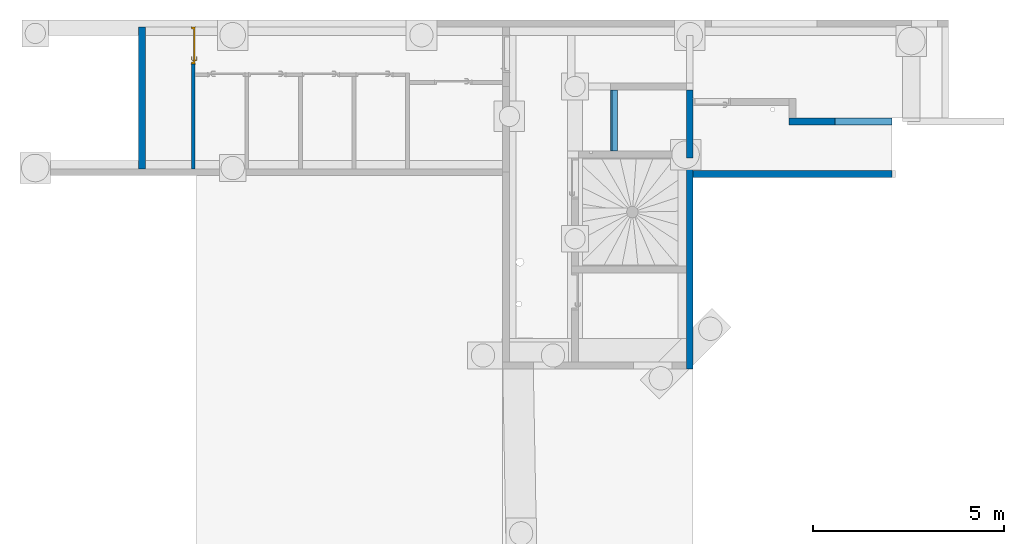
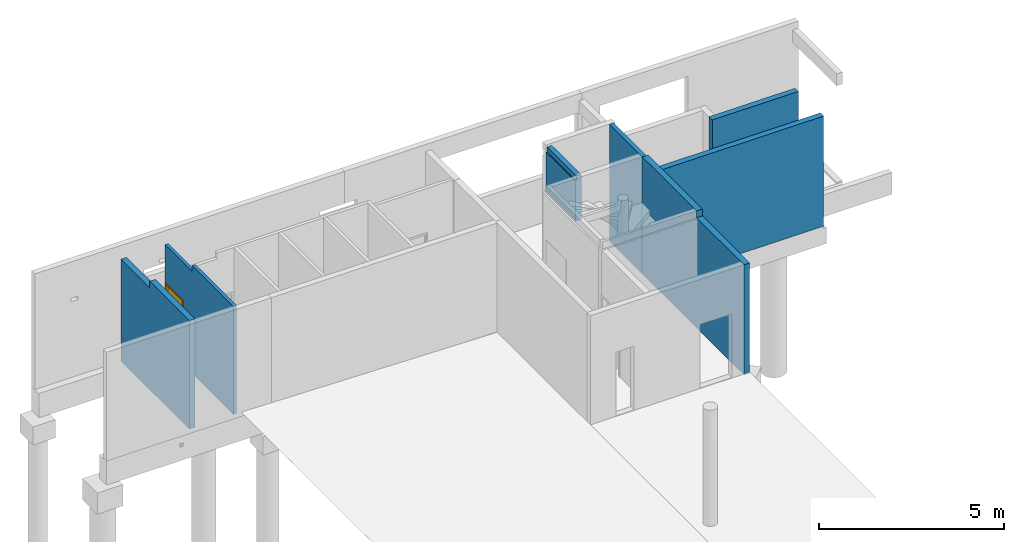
# One storey, part 3 of 14: 7 walls, 1 door, 3 openings.
"""IFC2X3 building model written with IfcOpenShell, lengths in centimetres."""

from ifc_helpers import new_model, entity, si_unit, converted_unit, derived_unit, direction, frame, frame_2d, origin, place, context, subcontext, project, spatial, polyline, rectangle, extrude, clip, bounded_halfspace, faceted_brep, source, transform, mapped, material, material_list, layer, layer_set, layer_usage, type_object, type_shapes, element, fill, save


model = new_model("IFC2X3")

# Units and contexts
model_context = context("Model", 3, precision=0.001, world=origin(), true_north=direction((6.12303176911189e-17, 1.0)))
body_context = subcontext(model_context, "Body", "Model", "MODEL_VIEW")
ifc_project = project(units=[si_unit("LENGTHUNIT", "METRE", prefix="CENTI"), si_unit("AREAUNIT", "SQUARE_METRE"), si_unit("VOLUMEUNIT", "CUBIC_METRE"), converted_unit("PLANEANGLEUNIT", "DEGREE", entity("IfcRatioMeasure", 0.0174532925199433), si_unit("PLANEANGLEUNIT", "RADIAN"), dimensions=[0, 0, 0, 0, 0, 0, 0]), si_unit("MASSUNIT", "GRAM", prefix="KILO"), derived_unit("MASSDENSITYUNIT", [(si_unit("MASSUNIT", "GRAM", prefix="KILO"), 1), (si_unit("LENGTHUNIT", "METRE"), -3)]), si_unit("TIMEUNIT", "SECOND"), si_unit("FREQUENCYUNIT", "HERTZ"), si_unit("THERMODYNAMICTEMPERATUREUNIT", "DEGREE_CELSIUS"), derived_unit("THERMALTRANSMITTANCEUNIT", [(si_unit("MASSUNIT", "GRAM", prefix="KILO"), 1), (si_unit("THERMODYNAMICTEMPERATUREUNIT", "KELVIN"), -1), (si_unit("TIMEUNIT", "SECOND"), -3)]), derived_unit("VOLUMETRICFLOWRATEUNIT", [(si_unit("LENGTHUNIT", "METRE"), 3), (si_unit("TIMEUNIT", "SECOND"), -1)]), si_unit("ELECTRICCURRENTUNIT", "AMPERE"), si_unit("ELECTRICVOLTAGEUNIT", "VOLT"), si_unit("POWERUNIT", "WATT"), si_unit("FORCEUNIT", "NEWTON"), si_unit("ILLUMINANCEUNIT", "LUX"), si_unit("LUMINOUSFLUXUNIT", "LUMEN"), si_unit("LUMINOUSINTENSITYUNIT", "CANDELA"), derived_unit("USERDEFINED", [(si_unit("MASSUNIT", "GRAM", prefix="KILO"), -1), (si_unit("LENGTHUNIT", "METRE"), -2), (si_unit("TIMEUNIT", "SECOND"), 3), (si_unit("LUMINOUSFLUXUNIT", "LUMEN"), 1)]), derived_unit("LINEARVELOCITYUNIT", [(si_unit("LENGTHUNIT", "METRE"), 1), (si_unit("TIMEUNIT", "SECOND"), -1)]), si_unit("PRESSUREUNIT", "PASCAL"), derived_unit("USERDEFINED", [(si_unit("LENGTHUNIT", "METRE"), -2), (si_unit("MASSUNIT", "GRAM", prefix="KILO"), 1), (si_unit("TIMEUNIT", "SECOND"), -2)])], contexts=[model_context])

# Site, building, storey
site_placement = place(None, origin())
site = spatial("IfcSite", under=ifc_project, at=site_placement, Name="Default", CompositionType="ELEMENT")
building_placement = place(site_placement, origin())
building = spatial("IfcBuilding", under=site, at=building_placement, Name="CAGE 03", CompositionType="ELEMENT")
storey_placement = place(building_placement, frame((0.0, 0.0, -42.0)))
storey = spatial("IfcBuildingStorey", under=building, at=storey_placement, Name="+3.58", CompositionType="ELEMENT", Elevation=-42.0000000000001)

# Wall, opening
ifc_material_1 = material(Name="Béton, C25/30")
ifc_layer_1 = layer(ifc_material_1, 18.0)
ifc_layer_set_1 = layer_set([ifc_layer_1], Name="Mur de base:Voile BA 18")
ifc_layer_usage_1 = layer_usage(ifc_layer_set_1, "AXIS2", "NEGATIVE", 9.0)
wall_type_1 = type_object("IfcWallType", Name="Mur de base:Voile BA 18", PredefinedType="STANDARD", material=ifc_layer_set_1)
wall_1_placement = place(storey_placement, frame((10301.3658201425, 5110.66066607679, 227.0), z_axis=(0.0, 0.0, 1.0), x_axis=(0.0, -1.0, 0.0)))
wall_1 = element("IfcWallStandardCase", 1, at=wall_1_placement, inside=storey, type_object=wall_type_1, material=ifc_layer_usage_1, Name="Mur de base:Voile BA 18", ObjectType="Mur de base:Voile BA 18", context=body_context, shape_type="Clipping", body=[
    clip(clip(extrude(rectangle(XDim=160.000000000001, YDim=17.9999999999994, at=frame_2d((80.0000000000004, 0.0), x_axis=(-1.0, 0.0))), origin(), (0.0, 0.0, 1.0), 148.0), bounded_halfspace(frame((160.0, -6.0, 132.0), z_axis=(0.0, 0.0, -1.0), x_axis=(1.0, 0.0, 0.0)), True, frame((160.0, -6.0, 132.0), z_axis=(0.0, 0.0, -1.0), x_axis=(1.0, 0.0, 0.0)), polyline([(0.0, 0.0), (0.0, 3.0), (-160.0, 3.0), (-160.0, 0.0), (0.0, 0.0)]))), bounded_halfspace(frame((0.0, -6.0, 132.0), z_axis=(0.0, 1.0, 0.0), x_axis=(0.0, 0.0, 1.0)), True, frame((0.0, -6.0, 132.0), z_axis=(0.0, 1.0, 0.0), x_axis=(0.0, 0.0, 1.0)), polyline([(0.0, 0.0), (16.0, 0.0), (16.0, 160.0), (0.0, 160.0), (0.0, 0.0)]))),
])
opening_1_placement = place(wall_1_placement, frame((5110.66066607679, -10301.3658201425, -227.0), z_axis=(0.0, 0.0, 1.0), x_axis=(0.0, 1.0, 0.0)))
element("IfcOpeningElement", 2, at=opening_1_placement, cuts=wall_1, Name="Mur de base:Voile BA 18", ObjectType="Opening", context=body_context, shape_type="SweptSolid", body=[
    extrude(rectangle(XDim=232.0, YDim=160.0, at=frame_2d((0.0, 0.0), x_axis=(0.0, 1.0))), frame((10157.9658201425, 5030.66066607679, 111.0), z_axis=(1.0, 0.0, 0.0), x_axis=(0.0, 1.0, 0.0)), (0.0, 0.0, 1.0), 304.8),
])

# Walls
ifc_layer_usage_2 = layer_usage(ifc_layer_set_1, "AXIS2", "POSITIVE", -9.0)
wall_2_placement = place(storey_placement, frame((10499.3658201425, 5110.66066607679, -5.0), z_axis=(0.0, 0.0, 1.0), x_axis=(0.0, -1.0, 0.0)))
element("IfcWallStandardCase", 3, at=wall_2_placement, inside=storey, type_object=wall_type_1, material=ifc_layer_usage_2, Name="Mur de base:Voile BA 18", ObjectType="Mur de base:Voile BA 18", context=body_context, shape_type="Clipping", body=[
    clip(clip(extrude(rectangle(XDim=178.000000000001, YDim=17.9999999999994, at=frame_2d((89.0000000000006, 1.20792265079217e-13), x_axis=(-1.0, 0.0))), origin(), (0.0, 0.0, 1.0), 387.0), bounded_halfspace(frame((0.0, 3.49999999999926, 364.0), z_axis=(0.0, 0.0, -1.0), x_axis=(1.0, 0.0, 0.0)), True, frame((0.0, 3.49999999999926, 364.0), z_axis=(0.0, 0.0, -1.0), x_axis=(1.0, 0.0, 0.0)), polyline([(0.0, 0.0), (0.0, -5.50000000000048), (178.0, -5.50000000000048), (178.0, 0.0), (0.0, 0.0)]))), bounded_halfspace(frame((178.0, 3.4999999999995, 364.0), z_axis=(0.0, -1.0, 0.0), x_axis=(0.0, 0.0, 1.0)), True, frame((178.0, 3.4999999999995, 364.0), z_axis=(0.0, -1.0, 0.0), x_axis=(0.0, 0.0, 1.0)), polyline([(0.0, 0.0), (23.0, 0.0), (23.0, 178.0), (0.0, 178.0), (0.0, 0.0)]))),
])
ifc_layer_usage_3 = layer_usage(ifc_layer_set_1, "AXIS2", "POSITIVE", -9.0)
wall_3_placement = place(storey_placement, frame((10499.3658201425, 4932.66066607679, -5.0), z_axis=(0.0, 0.0, 1.0), x_axis=(0.0, -1.0, 0.0)))
element("IfcWallStandardCase", 4, at=wall_3_placement, inside=storey, type_object=wall_type_1, material=ifc_layer_usage_3, Name="Mur de base:Voile BA 18", ObjectType="Mur de base:Voile BA 18", context=body_context, shape_type="Clipping", body=[
    clip(clip(extrude(rectangle(XDim=550.999999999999, YDim=17.9999999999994, at=frame_2d((275.5, 1.30562227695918e-13), x_axis=(-1.0, 0.0))), origin(), (0.0, 0.0, 1.0), 387.0), bounded_halfspace(frame((294.500000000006, 9.0, 364.0), z_axis=(0.0, 0.0, -1.0), x_axis=(1.0, 0.0, 0.0)), True, frame((294.500000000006, 9.0, 364.0), z_axis=(0.0, 0.0, -1.0), x_axis=(1.0, 0.0, 0.0)), polyline([(0.0, 0.0), (256.499999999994, 0.0), (256.499999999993, 18.0), (238.499999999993, 18.0), (5.49999999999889, 18.0), (0.0, 18.0), (0.0, 0.0)]))), bounded_halfspace(frame((294.500000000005, -9.0, 364.0), z_axis=(-1.0, 0.0, 0.0), x_axis=(0.0, 0.0, 1.0)), True, frame((294.500000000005, -9.0, 364.0), z_axis=(-1.0, 0.0, 0.0), x_axis=(0.0, 0.0, 1.0)), polyline([(0.0, 0.0), (23.0, 0.0), (23.0, 18.0), (0.0, 18.0), (0.0, 0.0)]))),
])

# Wall, opening
ifc_layer_usage_4 = layer_usage(ifc_layer_set_1, "AXIS2", "NEGATIVE", 9.0)
wall_4_placement = place(storey_placement, frame((9067.36582014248, 5275.6606660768, 0.0), z_axis=(0.0, 0.0, 1.0), x_axis=(0.0, -1.0, 0.0)))
wall_4 = element("IfcWallStandardCase", 5, at=wall_4_placement, inside=storey, type_object=wall_type_1, material=ifc_layer_usage_4, Name="Mur de base:Voile BA 18", ObjectType="Mur de base:Voile BA 18", context=body_context, shape_type="SweptSolid", body=[
    extrude(rectangle(XDim=371.000000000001, YDim=17.9999999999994, at=frame_2d((185.500000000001, 0.0), x_axis=(-1.0, 0.0))), origin(), (0.0, 0.0, 1.0), 359.0),
])
opening_2_placement = place(wall_4_placement, origin())
element("IfcOpeningElement", 6, at=opening_2_placement, cuts=wall_4, Name="Mur de base:Voile BA 18", ObjectType="Opening", context=body_context, shape_type="SweptSolid", body=[
    extrude(rectangle(XDim=22.0000000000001, YDim=165.000000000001, at=frame_2d((0.0, -8.17124146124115e-14), x_axis=(0.0, 1.0))), frame((73.5000000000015, 9.0, 348.0), z_axis=(0.0, -1.0, 0.0), x_axis=(-1.0, 0.0, 0.0)), (0.0, 0.0, 1.0), 18.0),
])

# Walls
ifc_layer_usage_5 = layer_usage(ifc_layer_set_1, "AXIS2", "POSITIVE", -9.0)
wall_5_placement = place(storey_placement, frame((11028.3658201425, 5028.16066607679, -5.0), z_axis=(0.0, 0.0, 1.0), x_axis=(-1.0, 0.0, 0.0)))
element("IfcWallStandardCase", 7, at=wall_5_placement, inside=storey, type_object=wall_type_1, material=ifc_layer_usage_5, Name="Mur de base:Voile BA 18", ObjectType="Mur de base:Voile BA 18", context=body_context, shape_type="Clipping", body=[
    clip(extrude(rectangle(XDim=268.999999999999, YDim=17.9999999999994, at=frame_2d((134.5, -1.15463194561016e-14), x_axis=(-1.0, 0.0))), origin(), (0.0, 0.0, 1.0), 362.0), bounded_halfspace(frame((150.0, -9.0, 193.0), z_axis=(1.0, 0.0, 0.0), x_axis=(0.0, -1.0, 0.0)), True, frame((150.0, -9.0, 193.0), z_axis=(1.0, 0.0, 0.0), x_axis=(0.0, -1.0, 0.0)), polyline([(0.0, 0.0), (0.0, 115.0), (-18.0, 115.0), (-18.0, 0.0), (0.0, 0.0)]))),
])
ifc_layer_usage_6 = layer_usage(ifc_layer_set_1, "AXIS2", "POSITIVE", -9.0)
wall_6_placement = place(storey_placement, frame((11028.3658201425, 4890.66066607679, -5.0), z_axis=(0.0, 0.0, 1.0), x_axis=(-1.0, 0.0, 0.0)))
element("IfcWallStandardCase", 8, at=wall_6_placement, inside=storey, type_object=wall_type_1, material=ifc_layer_usage_6, Name="Mur de base:Voile BA 18", ObjectType="Mur de base:Voile BA 18", context=body_context, shape_type="SweptSolid", body=[
    extrude(rectangle(XDim=520.0, YDim=17.9999999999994, at=frame_2d((260.0, -5.24025267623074e-14), x_axis=(-1.0, 0.0))), origin(), (0.0, 0.0, 1.0), 364.0),
])

# Wall, opening, door
ifc_material_2 = material(Name="Bloc béton")
ifc_layer_2 = layer(ifc_material_2, 10.0)
ifc_layer_set_2 = layer_set([ifc_layer_2], Name="Mur de base:Int. Parpaing 100 mm")
ifc_layer_usage_7 = layer_usage(ifc_layer_set_2, "AXIS2", "NEGATIVE", 5.0)
wall_type_2 = type_object("IfcWallType", Name="Mur de base:Int. Parpaing 100 mm", PredefinedType="STANDARD", material=ifc_layer_set_2)
wall_7_placement = place(storey_placement, frame((9201.36582014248, 5275.66066607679, 0.0), z_axis=(0.0, 0.0, 1.0), x_axis=(0.0, -1.0, 0.0)))
wall_7 = element("IfcWallStandardCase", 9, at=wall_7_placement, inside=storey, type_object=wall_type_2, material=ifc_layer_usage_7, Name="Mur de base:Int. Parpaing 100 mm", ObjectType="Mur de base:Int. Parpaing 100 mm", context=body_context, shape_type="Clipping", body=[
    clip(clip(extrude(rectangle(XDim=371.000000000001, YDim=10.0000000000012, at=frame_2d((185.500000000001, 0.0), x_axis=(-1.0, 0.0))), origin(), (0.0, 0.0, 1.0), 357.0), bounded_halfspace(frame((147.0, -5.0, 337.0), z_axis=(0.0, 0.0, -1.0), x_axis=(1.0, 0.0, 0.0)), True, frame((147.0, -5.0, 337.0), z_axis=(0.0, 0.0, -1.0), x_axis=(1.0, 0.0, 0.0)), polyline([(0.0, 0.0), (-147.0, 0.0), (-147.0, -10.0), (-27.0, -10.0), (-17.0, -10.0), (0.0, -10.0), (0.0, 0.0)]))), bounded_halfspace(frame((147.0, 5.0, 337.0), z_axis=(1.0, 0.0, 0.0), x_axis=(0.0, 0.0, 1.0)), True, frame((147.0, 5.0, 337.0), z_axis=(1.0, 0.0, 0.0), x_axis=(0.0, 0.0, 1.0)), polyline([(0.0, 0.0), (20.0, 0.0), (20.0, 10.0), (0.0, 10.0), (0.0, 0.0)]))),
])
opening_3_placement = place(wall_7_placement, frame((0.0, -5.0, 0.0)))
opening_3 = element("IfcOpeningElement", 10, at=opening_3_placement, cuts=wall_7, Name="Int. Simple:HB93:1", ObjectType="Opening", context=body_context, shape_type="SweptSolid", body=[
    extrude(rectangle(XDim=210.000000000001, YDim=96.9999999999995, at=frame_2d((105.000000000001, 48.4999999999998), x_axis=(1.0, 0.0))), frame((0.0, 0.0, 0.0), z_axis=(0.0, 1.0, 0.0), x_axis=(0.0, 0.0, 1.0)), (0.0, 0.0, 1.0), 10.0),
])
ifc_material_3 = material(Name="Finition Peinture - Blanc satiné")
ifc_material_4 = material(Name="Bois - Panneau de porte")
ifc_material_5 = material(Name="Bois - Cadre de porte")
ifc_material_list_1 = material_list([ifc_material_3, ifc_material_4, ifc_material_5])
ifc_material_list_2 = material_list([ifc_material_3, ifc_material_4, ifc_material_5])
door_style = type_object("IfcDoorStyle", Name="HB93", ConstructionType="NOTDEFINED", OperationType="SINGLE_SWING_LEFT", ParameterTakesPrecedence=False, Sizeable=False, material=ifc_material_list_2)
shared_shape = source(origin(), body_context, "Body", "Brep", [
    faceted_brep([(10.5352761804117, -0.500000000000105, 86.6003983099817), (11.5000000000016, -0.500000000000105, 87.0), (11.5000000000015, -0.500000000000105, 108.0), (10.5352761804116, -0.500000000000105, 108.399601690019), (9.50000000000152, -0.500000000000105, 108.535898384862), (8.46472381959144, -0.500000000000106, 108.399601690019), (7.50000000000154, -0.500000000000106, 108.0), (7.50000000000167, -0.500000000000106, 87.0), (8.46472381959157, -0.500000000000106, 86.6003983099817), (9.50000000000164, -0.500000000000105, 86.464101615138), (10.5352761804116, 0.0, 108.399601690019), (11.5000000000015, 0.0, 108.0), (11.5000000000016, 0.0, 87.0), (10.5352761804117, 0.0, 86.6003983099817), (9.50000000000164, 0.0, 86.464101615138), (8.46472381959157, 0.0, 86.6003983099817), (7.50000000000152, 0.0, 87.0), (7.50000000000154, 0.0, 108.0), (8.46472381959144, 0.0, 108.399601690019), (9.50000000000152, 0.0, 108.535898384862)], [[[0, 1, 2, 3, 4, 5, 6, 7, 8, 9]], [[10, 11, 12, 13, 14, 15, 16, 17, 18, 19]], [[16, 15, 8, 7]], [[8, 15, 14, 9]], [[14, 13, 0, 9]], [[13, 12, 1, 0]], [[2, 1, 12, 11]], [[11, 10, 3, 2]], [[3, 10, 19, 4]], [[19, 18, 5, 4]], [[18, 17, 6, 5]], [[7, 6, 17, 16]]]),
    faceted_brep([(10.5352761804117, 4.0, 86.6003983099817), (11.5000000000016, 4.0, 87.0), (11.5000000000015, 4.0, 108.0), (10.5352761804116, 4.0, 108.399601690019), (9.50000000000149, 4.0, 108.535898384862), (8.46472381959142, 4.0, 108.399601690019), (7.50000000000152, 4.0, 108.0), (7.50000000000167, 4.0, 87.0), (8.46472381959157, 4.0, 86.6003983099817), (9.50000000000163, 4.0, 86.464101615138), (10.5352761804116, 4.49999999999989, 108.399601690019), (11.5000000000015, 4.49999999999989, 108.0), (11.5000000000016, 4.49999999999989, 87.0), (10.5352761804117, 4.49999999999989, 86.6003983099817), (9.50000000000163, 4.49999999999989, 86.464101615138), (8.46472381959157, 4.49999999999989, 86.6003983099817), (7.50000000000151, 4.49999999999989, 87.0), (7.50000000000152, 4.49999999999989, 108.0), (8.46472381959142, 4.49999999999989, 108.399601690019), (9.50000000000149, 4.49999999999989, 108.535898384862)], [[[0, 1, 2, 3, 4, 5, 6, 7, 8, 9]], [[10, 11, 12, 13, 14, 15, 16, 17, 18, 19]], [[11, 10, 3, 2]], [[3, 10, 19, 4]], [[19, 18, 5, 4]], [[18, 17, 6, 5]], [[7, 6, 17, 16]], [[16, 15, 8, 7]], [[8, 15, 14, 9]], [[14, 13, 0, 9]], [[13, 12, 1, 0]], [[2, 1, 12, 11]]]),
    faceted_brep([(9.29747013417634, -0.500000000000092, 100.778044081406), (9.70252986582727, -0.50000000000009, 100.778044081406), (10.1000000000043, -0.500000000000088, 100.699999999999), (10.1000000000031, -0.500000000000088, 99.3000000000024), (9.70252986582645, -0.50000000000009, 99.2219559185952), (9.29747013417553, -0.500000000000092, 99.221955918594), (8.89999999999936, -0.500000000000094, 99.2999999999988), (8.89999999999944, -0.500000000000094, 100.7), (8.89999999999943, -3.26509507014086, 100.7), (9.29747013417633, -3.10045754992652, 100.778044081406), (10.9023585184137, -4.70534593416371, 100.778044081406), (11.0701397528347, -4.30028620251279, 100.778044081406), (9.70252986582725, -2.93267631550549, 100.778044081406), (10.1000000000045, -2.76803879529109, 100.7), (10.1000000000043, -2.76803879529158, 99.3000000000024), (9.70252986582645, -2.93267631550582, 99.2219559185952), (11.0701397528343, -4.30028620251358, 99.2219559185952), (10.9023585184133, -4.70534593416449, 99.221955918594), (9.29747013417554, -3.10045754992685, 99.221955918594), (8.89999999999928, -3.26509507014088, 99.2999999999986), (10.7377209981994, -5.10281606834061, 100.7), (11.2347772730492, -3.90281606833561, 100.7), (11.2347772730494, -3.90281606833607, 99.3000000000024), (10.7377209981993, -5.10281606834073, 99.2999999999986), (19.5018640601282, -5.1028160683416, 99.2999999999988), (19.5018640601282, -4.70534593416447, 99.221955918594), (19.5018640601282, -4.30028620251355, 99.2219559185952), (19.5018640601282, -3.90281606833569, 99.3000000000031), (19.5018640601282, -3.90281606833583, 100.7), (19.5018640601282, -4.30028620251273, 100.778044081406), (19.5018640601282, -4.70534593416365, 100.778044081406), (19.5018640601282, -5.10281606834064, 100.699999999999), (14.7307697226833, -5.10281606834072, 100.7), (15.28600190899, -4.5028160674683, 100.78786867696), (15.3683206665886, -3.9028160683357, 100.7), (15.3683206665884, -3.90281606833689, 99.3000000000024), (15.2860018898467, -4.50281607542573, 99.2121313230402), (14.7307700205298, -5.10281606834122, 99.2999999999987)], [[[0, 1, 2, 3, 4, 5, 6, 7]], [[8, 9, 0, 7]], [[9, 10, 11, 12, 1, 0]], [[12, 13, 2, 1]], [[3, 2, 13, 14]], [[14, 15, 4, 3]], [[15, 16, 17, 18, 5, 4]], [[18, 19, 6, 5]], [[7, 6, 19, 8]], [[20, 10, 9, 8]], [[11, 21, 13, 12]], [[14, 13, 21, 22]], [[22, 16, 15, 14]], [[17, 23, 19, 18]], [[8, 19, 23, 20]], [[24, 25, 26, 27, 28, 29, 30, 31]], [[32, 30, 33]], [[31, 30, 32]], [[10, 20, 32]], [[33, 34, 11]], [[21, 11, 34]], [[34, 29, 28]], [[30, 29, 33]], [[29, 34, 33]], [[10, 32, 33]], [[10, 33, 11]], [[22, 21, 34, 28, 27, 35]], [[35, 26, 36]], [[37, 36, 25]], [[22, 35, 16]], [[35, 27, 26]], [[24, 37, 25]], [[23, 17, 37]], [[37, 17, 36]], [[17, 16, 36]], [[16, 35, 36]], [[25, 36, 26]], [[20, 23, 37, 24, 31, 32]]]),
    faceted_brep([(9.29747013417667, 4.49999999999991, 100.778044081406), (8.89999999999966, 4.4999999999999, 100.7), (8.89999999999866, 4.4999999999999, 99.2999999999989), (9.2974701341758, 4.49999999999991, 99.221955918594), (9.70252986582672, 4.49999999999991, 99.2219559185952), (10.1000000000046, 4.49999999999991, 99.3000000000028), (10.1000000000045, 4.49999999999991, 100.7), (9.70252986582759, 4.49999999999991, 100.778044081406), (10.1000000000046, 6.7485204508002, 99.3000000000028), (10.1000000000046, 6.74852045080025, 100.7), (9.70252986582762, 6.91315797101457, 100.778044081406), (11.0838906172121, 8.29451872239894, 100.778044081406), (10.9161093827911, 8.69957845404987, 100.778044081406), (9.29747013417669, 7.0809392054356, 100.778044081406), (8.89999999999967, 7.24557672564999, 100.7), (8.89999999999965, 7.2455767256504, 99.2999999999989), (9.29747013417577, 7.08093920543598, 99.221955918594), (10.9161093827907, 8.69957845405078, 99.221955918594), (11.0838906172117, 8.29451872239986, 99.2219559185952), (9.7025298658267, 6.91315797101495, 99.2219559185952), (11.2485281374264, 7.89704858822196, 99.3000000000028), (11.2485281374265, 7.89704858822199, 100.7), (10.7514718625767, 9.09704858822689, 100.7), (10.751471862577, 9.0970485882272, 99.2999999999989), (19.504578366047, 7.89704858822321, 99.3000000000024), (19.504578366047, 8.29451872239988, 99.2219559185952), (19.504578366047, 8.6995784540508, 99.221955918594), (19.504578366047, 9.09704858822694, 99.2999999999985), (19.504578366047, 9.09704858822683, 100.7), (19.504578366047, 8.69957845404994, 100.778044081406), (19.504578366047, 8.29451872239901, 100.778044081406), (19.504578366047, 7.89704858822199, 100.7), (15.3765520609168, 7.89704858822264, 99.3000000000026), (15.3765532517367, 7.89704858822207, 100.7), (15.294234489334, 8.49704858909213, 100.78786867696), (14.7445205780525, 9.09704858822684, 100.7), (14.7445204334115, 9.09704858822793, 99.2999999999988), (15.2942345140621, 8.49704858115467, 99.2121313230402)], [[[0, 1, 2, 3, 4, 5, 6, 7]], [[6, 5, 8, 9]], [[9, 10, 7, 6]], [[10, 11, 12, 13, 0, 7]], [[13, 14, 1, 0]], [[2, 1, 14, 15]], [[15, 16, 3, 2]], [[16, 17, 18, 19, 4, 3]], [[19, 8, 5, 4]], [[9, 8, 20, 21]], [[21, 11, 10, 9]], [[12, 22, 14, 13]], [[15, 14, 22, 23]], [[23, 17, 16, 15]], [[18, 20, 8, 19]], [[24, 25, 26, 27, 28, 29, 30, 31]], [[21, 20, 32, 24, 31, 33]], [[33, 30, 34]], [[35, 34, 29]], [[21, 33, 11]], [[33, 31, 30]], [[28, 35, 29]], [[22, 12, 35]], [[35, 12, 34]], [[12, 11, 34]], [[11, 33, 34]], [[29, 34, 30]], [[22, 35, 28, 27, 36, 23]], [[36, 26, 37]], [[27, 26, 36]], [[17, 23, 36]], [[37, 32, 18]], [[20, 18, 32]], [[32, 25, 24]], [[26, 25, 37]], [[25, 32, 37]], [[17, 36, 37]], [[17, 37, 18]]]),
    faceted_brep([(3.50000000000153, 4.0, 206.5), (93.5000000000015, 4.0, 206.5), (93.5000000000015, 4.0, 0.0), (3.50000000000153, 4.0, 0.0), (3.50000000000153, 0.0, 206.5), (3.50000000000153, 0.0, 0.0), (93.5000000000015, 0.0, 0.0), (93.5000000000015, 0.0, 206.5)], [[[0, 1, 2, 3]], [[4, 5, 6, 7]], [[1, 0, 4, 7]], [[2, 1, 7, 6]], [[3, 2, 6, 5]], [[0, 3, 5, 4]]]),
    faceted_brep([(0.0, 0.0, 0.0), (0.0, 10.0, 0.0), (5.0, 10.0, 0.0), (5.0, 4.0, 0.0), (3.50000000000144, 4.0, 0.0), (3.50000000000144, 0.0, 0.0), (0.0, 0.0, 210.0), (0.0, 10.0, 210.0), (97.0, 10.0, 210.0), (97.0, 10.0, 0.0), (92.0, 10.0, 0.0), (92.0, 10.0, 205.0), (5.0, 10.0, 205.0), (5.0, 4.0, 205.0), (92.0, 4.0, 205.0), (92.0, 4.0, 0.0), (93.4999999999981, 4.0, 0.0), (93.4999999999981, 4.0, 206.5), (3.50000000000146, 4.0, 206.5), (3.50000000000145, 0.0, 206.5), (93.4999999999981, 0.0, 206.5), (93.4999999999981, 0.0, 0.0), (97.0, 0.0, 0.0), (97.0, 0.0, 210.0)], [[[0, 1, 2, 3, 4, 5]], [[1, 0, 6, 7]], [[2, 1, 7, 8, 9, 10, 11, 12]], [[3, 2, 12, 13]], [[4, 3, 13, 14, 15, 16, 17, 18]], [[5, 4, 18, 19]], [[0, 5, 19, 20, 21, 22, 23, 6]], [[8, 23, 22, 9]], [[22, 21, 16, 15, 10, 9]], [[14, 11, 10, 15]], [[20, 17, 16, 21]], [[7, 6, 23, 8]], [[13, 12, 11, 14]], [[19, 18, 17, 20]]]),
    faceted_brep([(1.5, 10.0, 0.0), (-1.49999999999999, 10.0, 0.0), (-1.49999999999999, 10.5000000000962, 0.0), (1.5, 10.5000000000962, 0.0), (1.5, 10.0, 208.500000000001), (95.4999999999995, 10.0, 208.500000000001), (95.4999999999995, 10.0, 0.0), (98.4999999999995, 10.0, 0.0), (98.4999999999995, 10.0, 211.500000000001), (-1.49999999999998, 10.0, 211.500000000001), (-1.49999999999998, 10.5000000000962, 211.500000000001), (98.4999999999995, 10.5000000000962, 211.500000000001), (98.4999999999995, 10.5000000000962, 0.0), (95.4999999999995, 10.5000000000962, 0.0), (95.4999999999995, 10.5000000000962, 208.500000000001), (1.50000000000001, 10.5000000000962, 208.500000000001)], [[[0, 1, 2, 3]], [[1, 0, 4, 5, 6, 7, 8, 9]], [[2, 1, 9, 10]], [[3, 2, 10, 11, 12, 13, 14, 15]], [[0, 3, 15, 4]], [[6, 13, 12, 7]], [[5, 14, 13, 6]], [[11, 8, 7, 12]], [[10, 9, 8, 11]], [[4, 15, 14, 5]]]),
    faceted_brep([(-1.49999999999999, -0.5, 0.0), (1.5, -0.5, 0.0), (1.5, -0.5, 208.500000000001), (95.4999999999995, -0.5, 208.500000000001), (95.4999999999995, -0.5, 0.0), (98.4999999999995, -0.5, 0.0), (98.4999999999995, -0.5, 211.500000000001), (-1.49999999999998, -0.5, 211.500000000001), (-1.49999999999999, 0.0, 0.0), (-1.49999999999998, 0.0, 211.500000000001), (1.5, 0.0, 0.0), (98.4999999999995, 0.0, 211.500000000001), (98.4999999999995, 0.0, 0.0), (95.4999999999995, 0.0, 0.0), (95.4999999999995, 0.0, 208.500000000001), (1.50000000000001, 0.0, 208.500000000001)], [[[0, 1, 2, 3, 4, 5, 6, 7]], [[8, 0, 7, 9]], [[10, 8, 9, 11, 12, 13, 14, 15]], [[1, 10, 15, 2]], [[3, 14, 13, 4]], [[11, 6, 5, 12]], [[9, 7, 6, 11]], [[2, 15, 14, 3]], [[4, 13, 12, 5]], [[1, 0, 8, 10]]]),
])
type_shapes(door_style, [shared_shape])
door_placement = place(opening_3_placement, frame((97.0, 10.0, 0.0), z_axis=(0.0, 0.0, 1.0), x_axis=(-1.0, 0.0, 0.0)))
door = element("IfcDoor", 11, at=door_placement, inside=storey, type_object=door_style, material=ifc_material_list_1, Name="Int. Simple:HB93", ObjectType="HB93", OverallHeight=210.000000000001, OverallWidth=96.9999999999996, context=body_context, shape_type="MappedRepresentation", body=[
    mapped(shared_shape, transform((0.0, 0.0, 0.0), scale=1.0)),
])
fill(opening_3, door)

save(model, "model.ifc")
